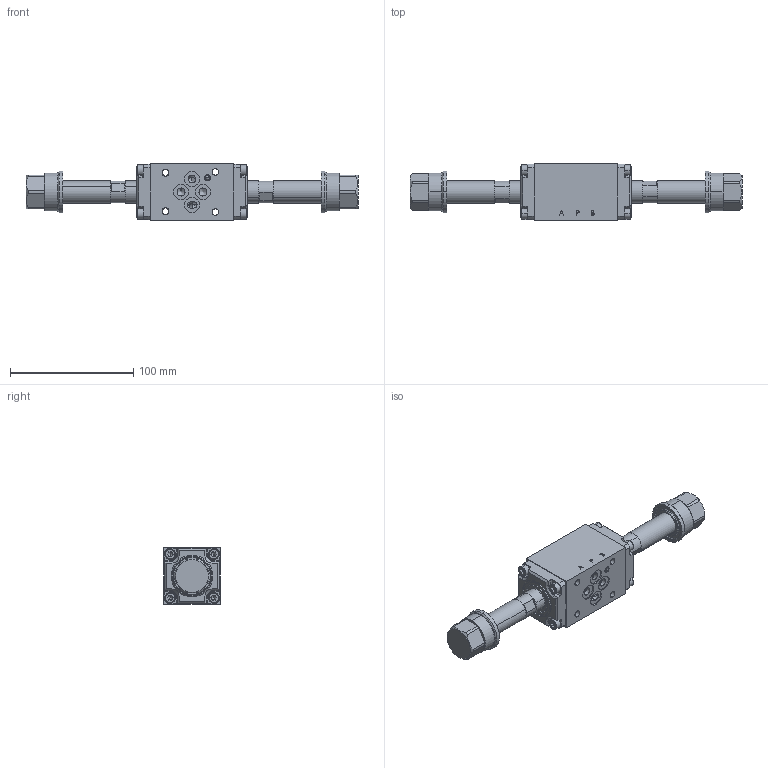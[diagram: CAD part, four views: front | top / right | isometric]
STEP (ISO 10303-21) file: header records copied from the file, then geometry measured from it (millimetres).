
FILE_DESCRIPTION (( 'STEP AP214' ), '1' );
FILE_NAME ('WDBFA06-K9-4_3.STEP', '2020-02-24T12:59:00', ( '' ), ( '' ), 'SwSTEP 2.0', 'SolidWorks 2018', '' );
FILE_SCHEMA (( 'AUTOMOTIVE_DESIGN' ));
Length unit declared in the file: millimetre
Products named in the file (1): WDBFA06-K9-4_3
Bounding box: 269.6 x 46 x 46 mm (x, y, z)
Volume: 242958.1 mm3; surface area: 50471.8 mm2
Topology: 1 solids, 15 shells, 833 faces, 1927 edges, 1174 vertices
Faces by surface type: plane 334, cylinder 250, cone 150, torus 80, bspline 15, sphere 4
Entity records: 33954 total; most frequent: CARTESIAN_POINT 5680, DIRECTION 4205, ORIENTED_EDGE 3778, EDGE_CURVE 1889, AXIS2_PLACEMENT_3D 1643, VERTEX_POINT 1174, EDGE_LOOP 945, LINE 919
